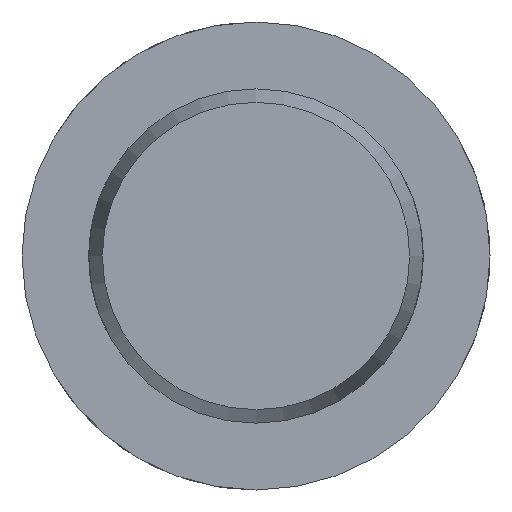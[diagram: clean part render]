
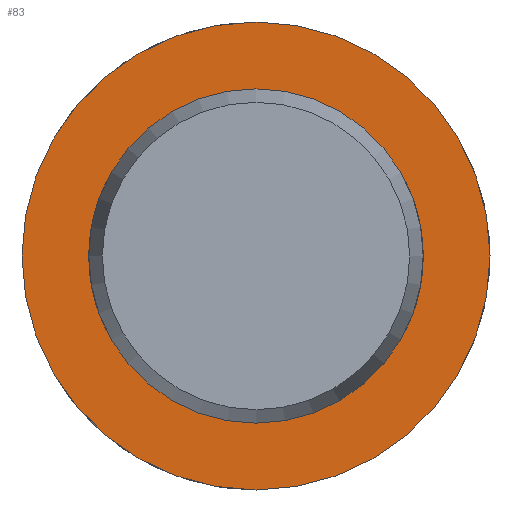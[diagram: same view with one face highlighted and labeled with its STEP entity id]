
A CAD part, left-side view. The second image highlights one B-rep face of the part: STEP entity #83.
In plain terms, the highlighted planar face has unit normal (-1, 0, 0).
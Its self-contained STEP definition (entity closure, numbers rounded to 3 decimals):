
#83 = ADVANCED_FACE( '', ( #128, #129 ), #130, .F. );
#128 = FACE_OUTER_BOUND( '', #204, .T. );
#129 = FACE_BOUND( '', #205, .T. );
#130 = PLANE( '', #206 );
#204 = EDGE_LOOP( '', ( #318 ) );
#205 = EDGE_LOOP( '', ( #319 ) );
#206 = AXIS2_PLACEMENT_3D( '', #320, #321, #322 );
#318 = ORIENTED_EDGE( '', *, *, #481, .F. );
#319 = ORIENTED_EDGE( '', *, *, #471, .T. );
#320 = CARTESIAN_POINT( '', ( 119.6, 5., 0. ) );
#321 = DIRECTION( '', ( 1., 0., 0. ) );
#322 = DIRECTION( '', ( 0., 0., -1. ) );
#471 = EDGE_CURVE( '', #541, #541, #542, .T. );
#481 = EDGE_CURVE( '', #559, #559, #560, .T. );
#541 = VERTEX_POINT( '', #726 );
#542 = CIRCLE( '', #727, 5. );
#559 = VERTEX_POINT( '', #881 );
#560 = CIRCLE( '', #882, 7. );
#726 = CARTESIAN_POINT( '', ( 119.6, 0., -5. ) );
#727 = AXIS2_PLACEMENT_3D( '', #943, #944, #945 );
#881 = CARTESIAN_POINT( '', ( 119.6, 0., -7. ) );
#882 = AXIS2_PLACEMENT_3D( '', #964, #965, #966 );
#943 = CARTESIAN_POINT( '', ( 119.6, 0., 0. ) );
#944 = DIRECTION( '', ( 1., 0., 0. ) );
#945 = DIRECTION( '', ( 0., 0., -1. ) );
#964 = CARTESIAN_POINT( '', ( 119.6, 0., 0. ) );
#965 = DIRECTION( '', ( 1., 0., 0. ) );
#966 = DIRECTION( '', ( 0., 0., -1. ) );
